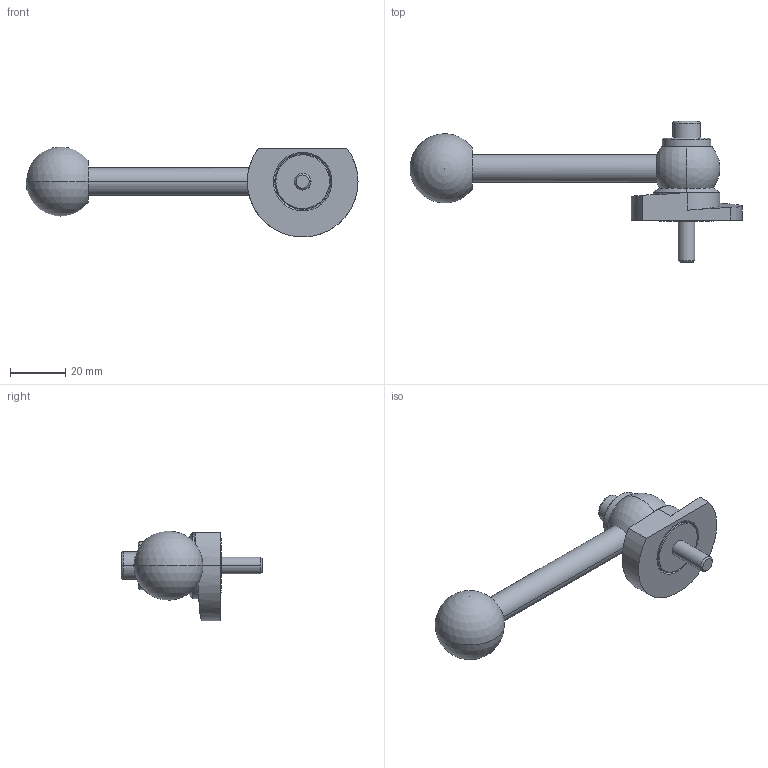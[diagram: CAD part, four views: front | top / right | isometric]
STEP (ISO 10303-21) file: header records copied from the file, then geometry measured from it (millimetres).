
FILE_DESCRIPTION (( 'STEP AP214' ), '1' );
FILE_NAME ('918.1-40-GVS-R-15.step', '2024-05-15T12:59:37', ( '' ), ( '' ), 'SwSTEP 2.0', 'SolidWorks 2022', '' );
FILE_SCHEMA (( 'AUTOMOTIVE_DESIGN' ));
Length unit declared in the file: millimetre
Products named in the file (1): 918.1-40-GVS-R-15
Bounding box: 120 x 51 x 32.5 mm (x, y, z)
Volume: 29931.8 mm3; surface area: 11021.8 mm2
Topology: 1 solids, 1 shells, 64 faces, 147 edges, 93 vertices
Faces by surface type: cylinder 22, plane 20, cone 14, sphere 4, torus 2, bspline 2
Entity records: 2045 total; most frequent: CARTESIAN_POINT 590, DIRECTION 321, ORIENTED_EDGE 274, EDGE_CURVE 137, AXIS2_PLACEMENT_3D 131, VERTEX_POINT 87, EDGE_LOOP 76, CIRCLE 68
